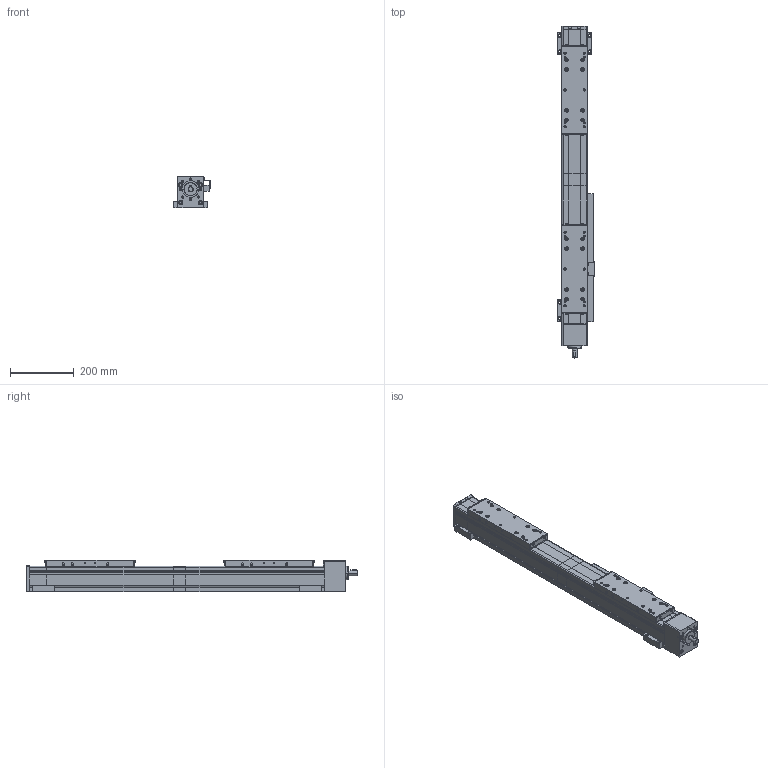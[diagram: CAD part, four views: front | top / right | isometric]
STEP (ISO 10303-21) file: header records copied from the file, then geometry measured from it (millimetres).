
FILE_DESCRIPTION(('Creo Elements/Direct Modeling STEP Export'),'2;1');
FILE_NAME('B080-SSS-RL-270-EN.stp','2020-02-25T 8:58:11',(''),(''),'Creo Elements/Direct Modeling STEP processor for AP214 (Solid Model)','Creo Elements/Direct Modeling 20.1C 13-Oct-2019 (C) Parametric Technology GmbH','');
FILE_SCHEMA(('AUTOMOTIVE_DESIGN { 1 0 10303 214 1 1 1 1 }'));
Length unit declared in the file: millimetre
Products named in the file (28): Endschalterprofil; Endschalter_induktiv; Endschalter_induktiv.1; Endschalter_induktiv.2; Induktive_Endschalter_mit_EN-Profil; Schaltfahne_10407; Linsenschraube_M4x8_EN_ISO_7380_1_10.9_vz_10243.01; Schaltfahne_10407_kpl; Induktive-Endschalter; Beta080-SRS-SSS-Grundkoerper-Teil1; Beta080-SRS-SSS-Schlitten-270mm.02; Abstreiferbuerste-Blau_10504.02; Schraube_M_4x8_ISO_7380_va_10252.01; Abstreifer_kpl; Schlitten_kpl; Beta080-SRS-SSS-Grundkoerper-Teil2; BL2; BL2.1; Befestigungsleistenpaar; Befestigungsleistenpaar.1; Befestigungsleisten; NS3; NS3.1; Nutensteinpaar; Nutensteine; B080-SSS-RL-270-EN
Assembly tree (31 placements, depth 4):
  B080-SSS-RL-270-EN
    Schlitten_kpl  x2
      Abstreifer_kpl
        Schraube_M_4x8_ISO_7380_va_10252.01  x2
        Abstreiferbuerste-Blau_10504.02
      Beta080-SRS-SSS-Schlitten-270mm.02
    Nutensteine
      Nutensteinpaar
        NS3.1
        NS3
    Befestigungsleisten
      Befestigungsleistenpaar.1
        BL2.1
        BL2
      Befestigungsleistenpaar
        BL2.1
        BL2
    Beta080-SRS-SSS-Grundkoerper-Teil2
    Beta080-SRS-SSS-Grundkoerper-Teil1
    Induktive-Endschalter
      Schaltfahne_10407_kpl
        Linsenschraube_M4x8_EN_ISO_7380_1_10.9_vz_10243.01  x2
        Schaltfahne_10407
      Induktive_Endschalter_mit_EN-Profil
        Endschalter_induktiv.2
        Endschalter_induktiv.1
        Endschalter_induktiv
        Endschalterprofil
Bounding box: 114.5 x 1038 x 100 mm (x, y, z)
Volume: 7317189.4 mm3; surface area: 647922.3 mm2
Topology: 29 solids, 29 shells, 1890 faces, 4295 edges, 2595 vertices
Faces by surface type: plane 962, cylinder 624, cone 228, torus 56, sphere 20
Entity records: 41131 total; most frequent: CARTESIAN_POINT 9795, ORIENTED_EDGE 6250, DIRECTION 5994, EDGE_CURVE 3125, AXIS2_PLACEMENT_3D 2022, VECTOR 1950, LINE 1950, VERTEX_POINT 1933
